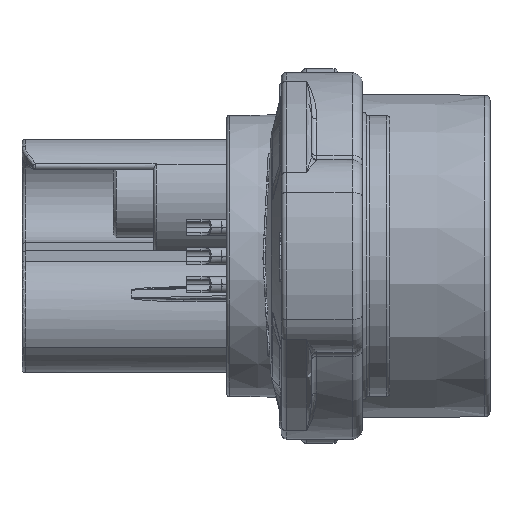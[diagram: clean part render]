
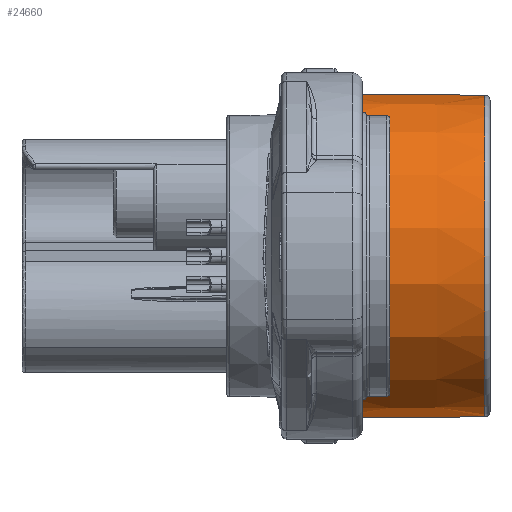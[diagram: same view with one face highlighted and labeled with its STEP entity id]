
A CAD part, front view. The second image highlights one B-rep face of the part: STEP entity #24660.
In plain terms, the highlighted conical face has half-angle 0.5 degrees and reference radius 16 mm.
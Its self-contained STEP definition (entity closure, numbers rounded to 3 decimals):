
#905 = ORIENTED_EDGE ( 'NONE', *, *, #27471, .T. ) ;
#1633 = AXIS2_PLACEMENT_3D ( 'NONE', #37214, #26058, #59981 ) ;
#2582 = ORIENTED_EDGE ( 'NONE', *, *, #54854, .T. ) ;
#4883 = VERTEX_POINT ( 'NONE', #18898 ) ;
#8899 = VERTEX_POINT ( 'NONE', #45868 ) ;
#9095 = EDGE_CURVE ( 'NONE', #11661, #4883, #75672, .T. ) ;
#11661 = VERTEX_POINT ( 'NONE', #14381 ) ;
#13497 = CARTESIAN_POINT ( 'NONE',  ( -0.496, 0., 0. ) ) ;
#14381 = CARTESIAN_POINT ( 'NONE',  ( -0.496, 0., -15.873 ) ) ;
#15449 = EDGE_CURVE ( 'NONE', #39230, #8899, #64225, .T. ) ;
#16715 = AXIS2_PLACEMENT_3D ( 'NONE', #13497, #55727, #60756 ) ;
#18428 = CARTESIAN_POINT ( 'NONE',  ( -15.1, 0., 16. ) ) ;
#18898 = CARTESIAN_POINT ( 'NONE',  ( -14.604, 0., -15.996 ) ) ;
#18899 = ORIENTED_EDGE ( 'NONE', *, *, #15449, .T. ) ;
#19404 = CARTESIAN_POINT ( 'NONE',  ( -0.496, 0., 15.873 ) ) ;
#21462 = DIRECTION ( 'NONE',  ( -1., 0., -0.009 ) ) ;
#23011 = CARTESIAN_POINT ( 'NONE',  ( -15.1, 0., -16. ) ) ;
#24660 = ADVANCED_FACE ( 'NONE', ( #57183 ), #47926, .T. ) ;
#25430 = ORIENTED_EDGE ( 'NONE', *, *, #9095, .F. ) ;
#26058 = DIRECTION ( 'NONE',  ( 1., 0., 0. ) ) ;
#27471 = EDGE_CURVE ( 'NONE', #11661, #39230, #47449, .T. ) ;
#30419 = VECTOR ( 'NONE', #40357, 1000. ) ;
#34767 = CIRCLE ( 'NONE', #1633, 15.996 ) ;
#37214 = CARTESIAN_POINT ( 'NONE',  ( -14.604, 0., 0. ) ) ;
#39230 = VERTEX_POINT ( 'NONE', #19404 ) ;
#40357 = DIRECTION ( 'NONE',  ( -1., 0., 0.009 ) ) ;
#45868 = CARTESIAN_POINT ( 'NONE',  ( -14.604, 0., 15.996 ) ) ;
#46733 = AXIS2_PLACEMENT_3D ( 'NONE', #74500, #51814, #63006 ) ;
#47449 = CIRCLE ( 'NONE', #16715, 15.873 ) ;
#47926 = CONICAL_SURFACE ( 'NONE', #46733, 16., 0.009 ) ;
#51814 = DIRECTION ( 'NONE',  ( -1., 0., 0. ) ) ;
#54854 = EDGE_CURVE ( 'NONE', #8899, #4883, #34767, .T. ) ;
#55727 = DIRECTION ( 'NONE',  ( -1., 0., 0. ) ) ;
#57183 = FACE_OUTER_BOUND ( 'NONE', #65769, .T. ) ;
#59981 = DIRECTION ( 'NONE',  ( 0., 0., 1. ) ) ;
#60756 = DIRECTION ( 'NONE',  ( 0., 0., -1. ) ) ;
#63006 = DIRECTION ( 'NONE',  ( 0., 0., -1. ) ) ;
#64225 = LINE ( 'NONE', #18428, #30419 ) ;
#65769 = EDGE_LOOP ( 'NONE', ( #905, #18899, #2582, #25430 ) ) ;
#68357 = VECTOR ( 'NONE', #21462, 1000. ) ;
#74500 = CARTESIAN_POINT ( 'NONE',  ( -15.1, 0., 0. ) ) ;
#75672 = LINE ( 'NONE', #23011, #68357 ) ;
